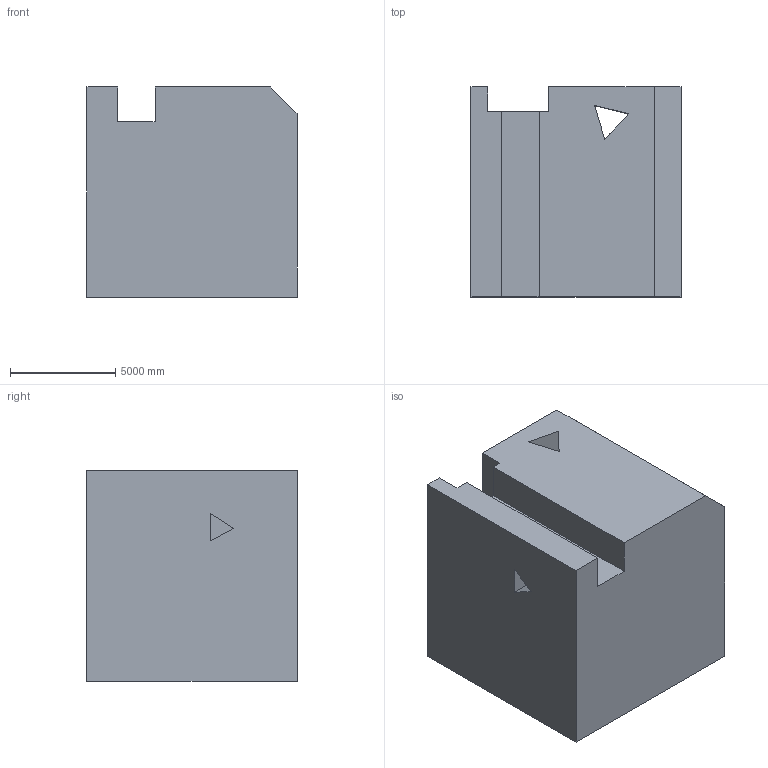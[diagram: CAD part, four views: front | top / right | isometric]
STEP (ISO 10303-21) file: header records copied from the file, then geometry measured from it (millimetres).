
FILE_DESCRIPTION (( 'STEP AP203' ), '1' );
FILE_NAME ('1511.STEP', '2022-08-18T14:56:28', ( 'user' ), ( '' ), 'SwSTEP 2.0', 'SolidWorks 2021', '' );
FILE_SCHEMA (( 'CONFIG_CONTROL_DESIGN' ));
Length unit declared in the file: centimetre
Products named in the file (1): 1511
Bounding box: 10000 x 10000 x 10000 mm (x, y, z)
Volume: 910532977319.2 mm3; surface area: 710420480.2 mm2
Topology: 1 solids, 1 shells, 27 faces, 75 edges, 50 vertices
Faces by surface type: plane 27
Entity records: 934 total; most frequent: CARTESIAN_POINT 153, ORIENTED_EDGE 150, DIRECTION 131, EDGE_CURVE 75, LINE 75, VECTOR 75, VERTEX_POINT 50, EDGE_LOOP 31
